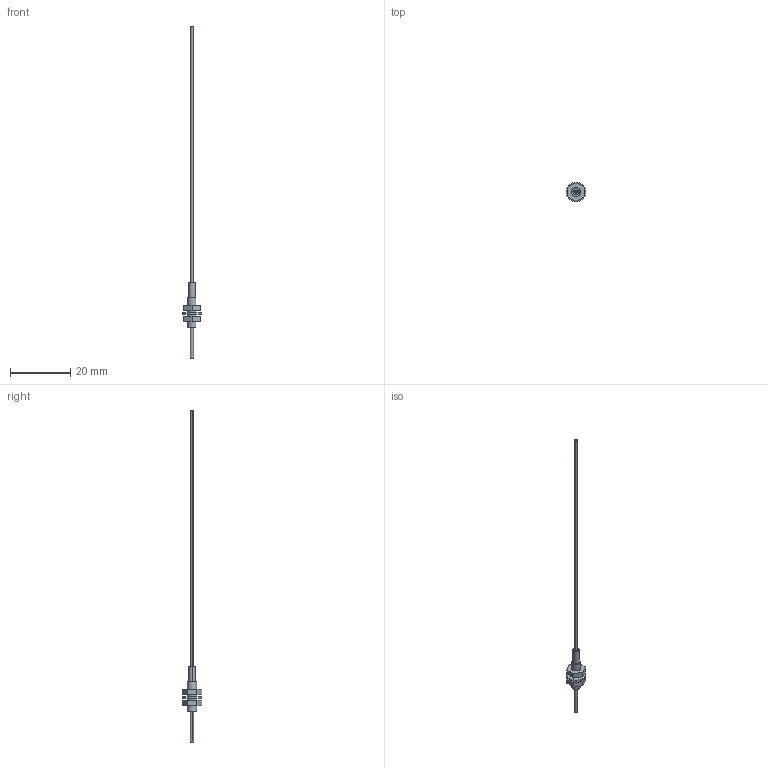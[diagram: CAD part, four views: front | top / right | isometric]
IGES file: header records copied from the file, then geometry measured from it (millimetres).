
Start section: SolidWorks IGES FILE using analytic representation for surfaces
Global section: file name: \\intra-srv04\開発データ\CAD_Data\CAD委員会\3D電子ｶﾀﾛｸﾞ\製品カタログ（新）\0_IGES\FT-NFM2S.IGS,41HSolidWorks 2004; native system: by SolidWorks Corporation; preprocessor: Version 5.3; author: mf1158; date: 050908.111553; units: millimetre
Bounding box: 6.5 x 6.5 x 110 mm (x, y, z)
Volume: 224.2 mm3; surface area: 650.5 mm2
Topology: 4 solids, 4 shells, 42 faces, 90 edges, 60 vertices
Faces by surface type: plane 25, revolution 17
